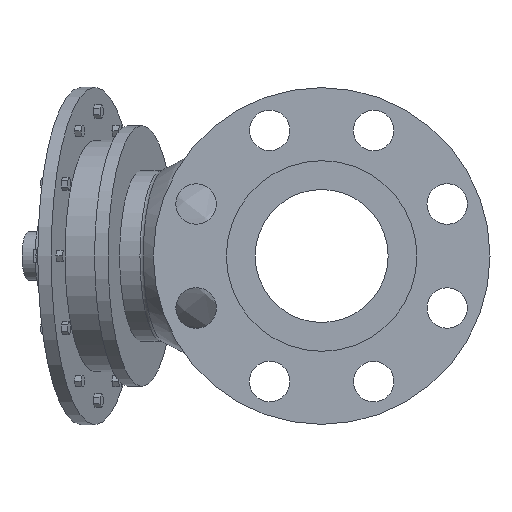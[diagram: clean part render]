
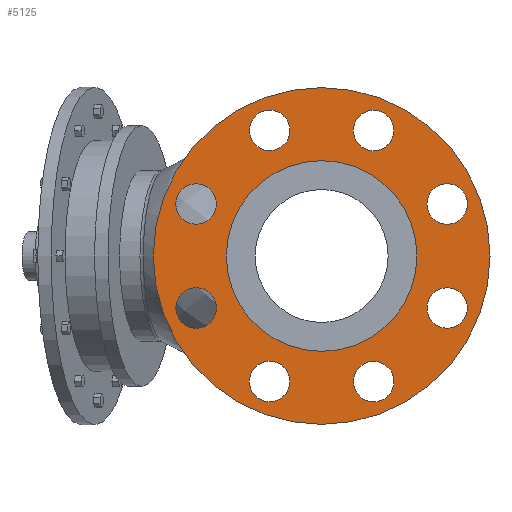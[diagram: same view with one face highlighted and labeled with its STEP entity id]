
A CAD part, left-side view. The second image highlights one B-rep face of the part: STEP entity #5125.
In plain terms, the highlighted planar face has unit normal (-1, 0, 0).
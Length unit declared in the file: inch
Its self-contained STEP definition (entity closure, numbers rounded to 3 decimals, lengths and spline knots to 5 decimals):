
#250=PLANE('',#5494);
#297=FACE_BOUND('',#944,.T.);
#298=FACE_BOUND('',#945,.T.);
#299=FACE_BOUND('',#946,.T.);
#300=FACE_BOUND('',#947,.T.);
#301=FACE_BOUND('',#948,.T.);
#302=FACE_BOUND('',#949,.T.);
#303=FACE_BOUND('',#950,.T.);
#304=FACE_BOUND('',#951,.T.);
#305=FACE_BOUND('',#952,.T.);
#642=FACE_OUTER_BOUND('',#943,.T.);
#943=EDGE_LOOP('',(#4505,#4506));
#944=EDGE_LOOP('',(#4507));
#945=EDGE_LOOP('',(#4508));
#946=EDGE_LOOP('',(#4509));
#947=EDGE_LOOP('',(#4510));
#948=EDGE_LOOP('',(#4511));
#949=EDGE_LOOP('',(#4512));
#950=EDGE_LOOP('',(#4513));
#951=EDGE_LOOP('',(#4514));
#952=EDGE_LOOP('',(#4515,#4516));
#2008=CIRCLE('',#5154,0.4375);
#2010=CIRCLE('',#5157,0.4375);
#2012=CIRCLE('',#5160,0.4375);
#2014=CIRCLE('',#5163,0.4375);
#2016=CIRCLE('',#5166,0.4375);
#2018=CIRCLE('',#5169,0.4375);
#2020=CIRCLE('',#5172,0.4375);
#2022=CIRCLE('',#5175,0.4375);
#2105=CIRCLE('',#5492,2.06);
#2106=CIRCLE('',#5493,2.06);
#2107=CIRCLE('',#5495,3.64);
#2108=CIRCLE('',#5496,3.64);
#2119=VERTEX_POINT('',#6789);
#2121=VERTEX_POINT('',#6795);
#2123=VERTEX_POINT('',#6801);
#2125=VERTEX_POINT('',#6807);
#2127=VERTEX_POINT('',#6813);
#2129=VERTEX_POINT('',#6819);
#2131=VERTEX_POINT('',#6825);
#2133=VERTEX_POINT('',#6831);
#2560=VERTEX_POINT('',#9314);
#2561=VERTEX_POINT('',#9315);
#2562=VERTEX_POINT('',#9320);
#2563=VERTEX_POINT('',#9321);
#2574=EDGE_CURVE('',#2119,#2119,#2008,.T.);
#2577=EDGE_CURVE('',#2121,#2121,#2010,.T.);
#2580=EDGE_CURVE('',#2123,#2123,#2012,.T.);
#2583=EDGE_CURVE('',#2125,#2125,#2014,.T.);
#2586=EDGE_CURVE('',#2127,#2127,#2016,.T.);
#2589=EDGE_CURVE('',#2129,#2129,#2018,.T.);
#2592=EDGE_CURVE('',#2131,#2131,#2020,.T.);
#2595=EDGE_CURVE('',#2133,#2133,#2022,.T.);
#3223=EDGE_CURVE('',#2560,#2561,#2105,.T.);
#3224=EDGE_CURVE('',#2561,#2560,#2106,.T.);
#3226=EDGE_CURVE('',#2562,#2563,#2107,.T.);
#3227=EDGE_CURVE('',#2563,#2562,#2108,.T.);
#4505=ORIENTED_EDGE('',*,*,#3226,.F.);
#4506=ORIENTED_EDGE('',*,*,#3227,.F.);
#4507=ORIENTED_EDGE('',*,*,#2574,.T.);
#4508=ORIENTED_EDGE('',*,*,#2577,.T.);
#4509=ORIENTED_EDGE('',*,*,#2580,.T.);
#4510=ORIENTED_EDGE('',*,*,#2583,.T.);
#4511=ORIENTED_EDGE('',*,*,#2586,.T.);
#4512=ORIENTED_EDGE('',*,*,#2589,.T.);
#4513=ORIENTED_EDGE('',*,*,#2592,.T.);
#4514=ORIENTED_EDGE('',*,*,#2595,.T.);
#4515=ORIENTED_EDGE('',*,*,#3223,.T.);
#4516=ORIENTED_EDGE('',*,*,#3224,.T.);
#5125=ADVANCED_FACE('',(#642,#297,#298,#299,#300,#301,#302,#303,#304,#305),
#250,.T.);
#5154=AXIS2_PLACEMENT_3D('',#6790,#5531,#5532);
#5157=AXIS2_PLACEMENT_3D('',#6796,#5538,#5539);
#5160=AXIS2_PLACEMENT_3D('',#6802,#5545,#5546);
#5163=AXIS2_PLACEMENT_3D('',#6808,#5552,#5553);
#5166=AXIS2_PLACEMENT_3D('',#6814,#5559,#5560);
#5169=AXIS2_PLACEMENT_3D('',#6820,#5566,#5567);
#5172=AXIS2_PLACEMENT_3D('',#6826,#5573,#5574);
#5175=AXIS2_PLACEMENT_3D('',#6832,#5580,#5581);
#5492=AXIS2_PLACEMENT_3D('',#9316,#6713,#6714);
#5493=AXIS2_PLACEMENT_3D('',#9317,#6715,#6716);
#5494=AXIS2_PLACEMENT_3D('',#9319,#6718,#6719);
#5495=AXIS2_PLACEMENT_3D('',#9322,#6720,#6721);
#5496=AXIS2_PLACEMENT_3D('',#9323,#6722,#6723);
#5531=DIRECTION('center_axis',(1.,0.,0.));
#5532=DIRECTION('ref_axis',(0.,0.707,0.707));
#5538=DIRECTION('center_axis',(1.,0.,0.));
#5539=DIRECTION('ref_axis',(0.,1.,0.));
#5545=DIRECTION('center_axis',(1.,0.,0.));
#5546=DIRECTION('ref_axis',(0.,0.707,-0.707));
#5552=DIRECTION('center_axis',(1.,0.,0.));
#5553=DIRECTION('ref_axis',(0.,0.,-1.));
#5559=DIRECTION('center_axis',(1.,0.,0.));
#5560=DIRECTION('ref_axis',(0.,-0.707,-0.707));
#5566=DIRECTION('center_axis',(1.,0.,0.));
#5567=DIRECTION('ref_axis',(0.,-1.,0.));
#5573=DIRECTION('center_axis',(1.,0.,0.));
#5574=DIRECTION('ref_axis',(0.,-0.707,0.707));
#5580=DIRECTION('center_axis',(1.,0.,0.));
#5581=DIRECTION('ref_axis',(0.,0.,1.));
#6713=DIRECTION('center_axis',(1.,0.,0.));
#6714=DIRECTION('ref_axis',(0.,0.,-1.));
#6715=DIRECTION('center_axis',(1.,0.,0.));
#6716=DIRECTION('ref_axis',(0.,0.,-1.));
#6718=DIRECTION('center_axis',(-1.,0.,0.));
#6719=DIRECTION('ref_axis',(0.,0.,1.));
#6720=DIRECTION('center_axis',(1.,0.,0.));
#6721=DIRECTION('ref_axis',(0.,0.,-1.));
#6722=DIRECTION('center_axis',(1.,0.,0.));
#6723=DIRECTION('ref_axis',(0.,0.,-1.));
#6789=CARTESIAN_POINT('',(-4.31,0.81477,-3.02326));
#6790=CARTESIAN_POINT('Origin',(-4.31,1.12413,-2.7139));
#6795=CARTESIAN_POINT('',(-4.31,-1.56163,-2.7139));
#6796=CARTESIAN_POINT('Origin',(-4.31,-1.12413,-2.7139));
#6801=CARTESIAN_POINT('',(-4.31,-3.02326,-0.81477));
#6802=CARTESIAN_POINT('Origin',(-4.31,-2.7139,-1.12413));
#6807=CARTESIAN_POINT('',(-4.31,-2.7139,1.56163));
#6808=CARTESIAN_POINT('Origin',(-4.31,-2.7139,1.12413));
#6813=CARTESIAN_POINT('',(-4.31,-0.81477,3.02326));
#6814=CARTESIAN_POINT('Origin',(-4.31,-1.12413,2.7139));
#6819=CARTESIAN_POINT('',(-4.31,1.56163,2.7139));
#6820=CARTESIAN_POINT('Origin',(-4.31,1.12413,2.7139));
#6825=CARTESIAN_POINT('',(-4.31,3.02326,0.81477));
#6826=CARTESIAN_POINT('Origin',(-4.31,2.7139,1.12413));
#6831=CARTESIAN_POINT('',(-4.31,2.7139,-1.56163));
#6832=CARTESIAN_POINT('Origin',(-4.31,2.7139,-1.12413));
#9314=CARTESIAN_POINT('',(-4.31,2.06,0.));
#9315=CARTESIAN_POINT('',(-4.31,-2.06,0.));
#9316=CARTESIAN_POINT('Origin',(-4.31,0.,0.));
#9317=CARTESIAN_POINT('Origin',(-4.31,0.,0.));
#9319=CARTESIAN_POINT('Origin',(-4.31,3.64,0.));
#9320=CARTESIAN_POINT('',(-4.31,3.64,0.));
#9321=CARTESIAN_POINT('',(-4.31,-3.64,0.));
#9322=CARTESIAN_POINT('Origin',(-4.31,0.,0.));
#9323=CARTESIAN_POINT('Origin',(-4.31,0.,0.));
